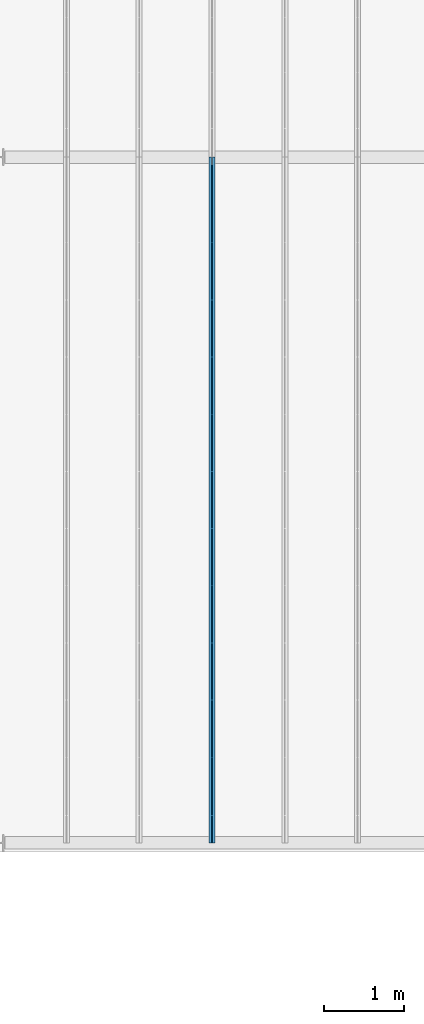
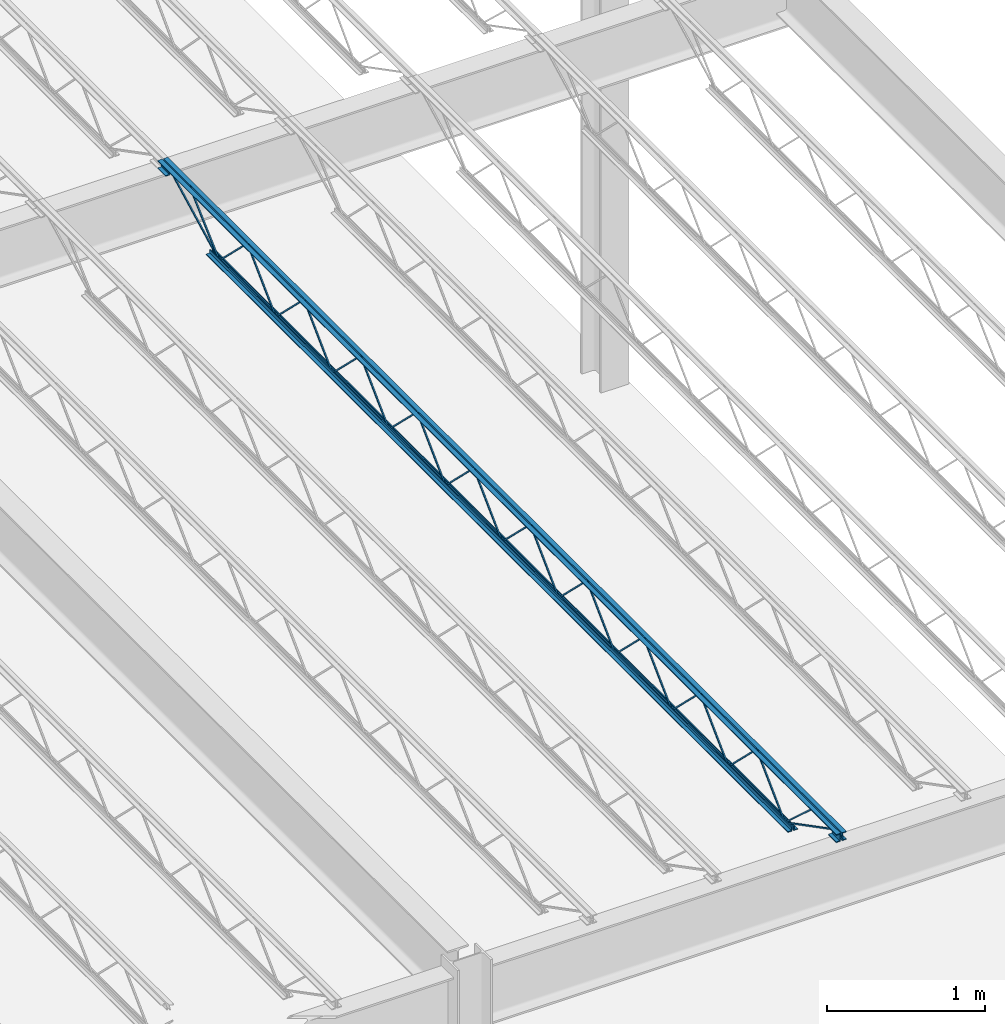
# One storey, part 66 of 119: 1 beam.
"""IFC2X3 building model written with IfcOpenShell, lengths in metres."""

from ifc_helpers import new_model, entity, si_unit, converted_unit, frame, origin, place, context, project, spatial, face_set, surface_model, element, save


model = new_model("IFC2X3")

# Units and contexts
model_context = context("Model", 3, precision=1e-09, world=origin())
plan_context = context("Plan", 3, precision=1e-09, world=origin())
ifc_project = project(units=[si_unit("LENGTHUNIT", "METRE"), si_unit("AREAUNIT", "SQUARE_METRE"), si_unit("VOLUMEUNIT", "CUBIC_METRE"), converted_unit("PLANEANGLEUNIT", "DEGREE", entity("IfcRatioMeasure", 0.01745329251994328), si_unit("PLANEANGLEUNIT", "RADIAN"), dimensions=[0, 0, 0, 0, 0, 0, 0]), si_unit("TIMEUNIT", "SECOND")], contexts=[model_context, plan_context])

# Site, building, storey
site_placement = place(None, origin())
site = spatial("IfcSite", under=ifc_project, at=site_placement, Name="Default", CompositionType="ELEMENT")
building_placement = place(site_placement, origin())
building = spatial("IfcBuilding", under=site, at=building_placement, CompositionType="ELEMENT")
storey_placement = place(building_placement, frame((0.0, 0.0, 4.570000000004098)))
storey = spatial("IfcBuildingStorey", under=building, at=storey_placement, Name="Second Floor", CompositionType="ELEMENT", Elevation=4.570000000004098)

# Beam
beam_placement = place(storey_placement, frame((-4.586750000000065, 10.03999999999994, 4.323999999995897)))
element("IfcBeam", 1, at=beam_placement, inside=storey, Name="M_K-Series Bar Joist-Rod Web:14K1:14K1", ObjectType="M_K-Series Bar Joist-Rod Web:14K1", context=model_context, shape_type="SurfaceModel", body=[
    surface_model("IfcFaceBasedSurfaceModel", [(0.04150000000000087, 6.428799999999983, 0.01110000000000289), (0.03200000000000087, 6.428799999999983, 0.01110000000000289), (0.03200000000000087, 6.428799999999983, 0.001600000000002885), (0.04150000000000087, 6.428799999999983, 0.001600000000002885), (0.03200000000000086, 6.430038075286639, 0.01110000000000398), (0.04150000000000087, 6.430038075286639, 0.01110000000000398), (0.03200000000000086, 6.433911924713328, 0.001600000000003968), (0.03200000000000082, 6.784861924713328, 0.3449000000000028), (0.03200000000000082, 6.787338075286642, 0.3449000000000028), (0.03200000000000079, 7.138288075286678, 0.001600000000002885), (0.03200000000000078, 7.143399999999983, 0.001600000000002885), (0.03200000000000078, 7.143399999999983, 0.01110000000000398), (0.03200000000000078, 7.142161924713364, 0.01110000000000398), (0.03200000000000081, 6.791211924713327, 0.3544000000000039), (0.03200000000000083, 6.780988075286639, 0.3544000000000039), (0.04150000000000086, 6.433911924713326, 0.001600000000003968), (0.04150000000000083, 6.784861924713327, 0.3449000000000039), (0.04150000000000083, 6.78733807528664, 0.3449000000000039), (0.04150000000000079, 7.138288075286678, 0.001600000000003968), (0.04150000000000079, 7.143399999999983, 0.001600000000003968), (0.04150000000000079, 7.143399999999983, 0.01110000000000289), (0.04150000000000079, 7.142161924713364, 0.01110000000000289), (0.04150000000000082, 6.79121192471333, 0.3544000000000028), (0.04150000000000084, 6.780988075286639, 0.3544000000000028), (0.04150000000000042, 5.714199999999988, 0.01110000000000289), (0.03200000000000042, 5.714199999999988, 0.01110000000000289), (0.03200000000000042, 5.714199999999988, 0.001600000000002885), (0.04150000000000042, 5.714199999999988, 0.001600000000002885), (0.03200000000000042, 5.715438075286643, 0.01110000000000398), (0.04150000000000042, 5.715438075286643, 0.01110000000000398), (0.03200000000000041, 5.71931192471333, 0.001600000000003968), (0.03200000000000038, 6.07026192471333, 0.3449000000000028), (0.03200000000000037, 6.072738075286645, 0.3449000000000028), (0.03200000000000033, 6.423688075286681, 0.001600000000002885), (0.03200000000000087, 6.428799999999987, 0.001600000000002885), (0.03200000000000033, 6.428799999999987, 0.01110000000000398), (0.03200000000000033, 6.427561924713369, 0.01110000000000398), (0.03200000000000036, 6.076611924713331, 0.3544000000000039), (0.03200000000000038, 6.066388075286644, 0.3544000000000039), (0.04150000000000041, 5.71931192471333, 0.001600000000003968), (0.04150000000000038, 6.07026192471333, 0.3449000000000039), (0.04150000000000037, 6.072738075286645, 0.3449000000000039), (0.04150000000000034, 6.423688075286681, 0.001600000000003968), (0.04150000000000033, 6.428799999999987, 0.001600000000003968), (0.04150000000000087, 6.428799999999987, 0.01110000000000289), (0.04150000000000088, 6.427561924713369, 0.01110000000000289), (0.04150000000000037, 6.076611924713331, 0.3544000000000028), (0.04150000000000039, 6.066388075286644, 0.3544000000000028), (0.04150000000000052, 4.999599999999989, 0.01110000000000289), (0.03200000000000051, 4.999599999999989, 0.01110000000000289), (0.03200000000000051, 4.999599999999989, 0.001600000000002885), (0.04150000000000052, 4.999599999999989, 0.001600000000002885), (0.03200000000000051, 5.000838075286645, 0.01110000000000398), (0.04150000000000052, 5.000838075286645, 0.01110000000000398), (0.0320000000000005, 5.004711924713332, 0.001600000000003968), (0.03200000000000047, 5.355661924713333, 0.3449000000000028), (0.03200000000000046, 5.358138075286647, 0.3449000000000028), (0.03200000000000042, 5.709088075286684, 0.001600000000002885), (0.03200000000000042, 5.714199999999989, 0.001600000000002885), (0.03200000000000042, 5.714199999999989, 0.01110000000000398), (0.03200000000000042, 5.712961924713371, 0.01110000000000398), (0.03200000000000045, 5.362011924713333, 0.3544000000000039), (0.03200000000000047, 5.351788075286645, 0.3544000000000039), (0.04150000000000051, 5.004711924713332, 0.001600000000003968), (0.04150000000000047, 5.355661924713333, 0.3449000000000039), (0.04150000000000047, 5.358138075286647, 0.3449000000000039), (0.04150000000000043, 5.709088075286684, 0.001600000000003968), (0.04150000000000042, 5.714199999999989, 0.001600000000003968), (0.04150000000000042, 5.714199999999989, 0.01110000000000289), (0.04150000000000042, 5.712961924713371, 0.01110000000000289), (0.04150000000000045, 5.362011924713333, 0.3544000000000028), (0.04150000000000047, 5.351788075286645, 0.3544000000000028), (0.04150000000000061, 4.284999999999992, 0.01110000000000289), (0.0320000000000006, 4.284999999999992, 0.01110000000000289), (0.0320000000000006, 4.284999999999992, 0.001600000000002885), (0.04150000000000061, 4.284999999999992, 0.001600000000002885), (0.0320000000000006, 4.286238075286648, 0.01110000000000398), (0.0415000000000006, 4.286238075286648, 0.01110000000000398), (0.03200000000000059, 4.290111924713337, 0.001600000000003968), (0.03200000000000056, 4.641061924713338, 0.3449000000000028), (0.03200000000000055, 4.643538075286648, 0.3449000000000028), (0.03200000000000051, 4.994488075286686, 0.001600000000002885), (0.03200000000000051, 4.999599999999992, 0.001600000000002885), (0.03200000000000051, 4.999599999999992, 0.01110000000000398), (0.03200000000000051, 4.998361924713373, 0.01110000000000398), (0.03200000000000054, 4.647411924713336, 0.3544000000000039), (0.03200000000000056, 4.637188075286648, 0.3544000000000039), (0.0415000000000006, 4.290111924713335, 0.001600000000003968), (0.04150000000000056, 4.641061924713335, 0.3449000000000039), (0.04150000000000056, 4.643538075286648, 0.3449000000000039), (0.04150000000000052, 4.994488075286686, 0.001600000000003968), (0.04150000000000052, 4.999599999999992, 0.001600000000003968), (0.04150000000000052, 4.999599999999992, 0.01110000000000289), (0.04150000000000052, 4.998361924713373, 0.01110000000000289), (0.04150000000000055, 4.647411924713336, 0.3544000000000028), (0.04150000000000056, 4.637188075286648, 0.3544000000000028), (0.04150000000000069, 3.570399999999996, 0.01110000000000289), (0.03200000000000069, 3.570399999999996, 0.01110000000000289), (0.03200000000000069, 3.570399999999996, 0.001600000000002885), (0.04150000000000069, 3.570399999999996, 0.001600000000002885), (0.03200000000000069, 3.571638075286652, 0.01110000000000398), (0.04150000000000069, 3.571638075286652, 0.01110000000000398), (0.03200000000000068, 3.575511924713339, 0.001600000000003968), (0.03200000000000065, 3.926461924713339, 0.3449000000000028), (0.03200000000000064, 3.928938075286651, 0.3449000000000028), (0.0320000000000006, 4.279888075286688, 0.001600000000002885), (0.0320000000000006, 4.284999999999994, 0.001600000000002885), (0.0320000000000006, 4.284999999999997, 0.01110000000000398), (0.0320000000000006, 4.283761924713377, 0.01110000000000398), (0.03200000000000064, 3.93281192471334, 0.3544000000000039), (0.03200000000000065, 3.922588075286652, 0.3544000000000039), (0.04150000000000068, 3.575511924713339, 0.001600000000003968), (0.04150000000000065, 3.926461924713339, 0.3449000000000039), (0.04150000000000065, 3.928938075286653, 0.3449000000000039), (0.04150000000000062, 4.27988807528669, 0.001600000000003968), (0.04150000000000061, 4.284999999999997, 0.001600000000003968), (0.04150000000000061, 4.284999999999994, 0.01110000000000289), (0.04150000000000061, 4.283761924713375, 0.01110000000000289), (0.04150000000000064, 3.932811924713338, 0.3544000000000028), (0.04150000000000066, 3.922588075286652, 0.3544000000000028), (0.04150000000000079, 2.855799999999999, 0.01110000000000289), (0.03200000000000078, 2.855799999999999, 0.01110000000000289), (0.03200000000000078, 2.855799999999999, 0.001600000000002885), (0.04150000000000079, 2.855799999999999, 0.001600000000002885), (0.03200000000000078, 2.857038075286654, 0.01110000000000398), (0.04150000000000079, 2.857038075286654, 0.01110000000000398), (0.03200000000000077, 2.860911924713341, 0.001600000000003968), (0.03200000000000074, 3.211861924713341, 0.3449000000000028), (0.03200000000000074, 3.214338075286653, 0.3449000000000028), (0.0320000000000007, 3.56528807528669, 0.001600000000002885), (0.03200000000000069, 3.570399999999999, 0.01110000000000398), (0.03200000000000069, 3.56916192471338, 0.01110000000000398), (0.03200000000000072, 3.218211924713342, 0.3544000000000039), (0.03200000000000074, 3.207988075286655, 0.3544000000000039), (0.04150000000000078, 2.860911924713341, 0.001600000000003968), (0.04150000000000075, 3.211861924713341, 0.3449000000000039), (0.04150000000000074, 3.214338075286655, 0.3449000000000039), (0.0415000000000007, 3.565288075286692, 0.001600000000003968), (0.04150000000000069, 3.570399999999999, 0.001600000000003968), (0.0415000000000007, 3.569161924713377, 0.01110000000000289), (0.04150000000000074, 3.21821192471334, 0.3544000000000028), (0.04150000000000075, 3.207988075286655, 0.3544000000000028), (0.04150000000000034, 2.1412, 0.01110000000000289), (0.03200000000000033, 2.1412, 0.01110000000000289), (0.03200000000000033, 2.1412, 0.001600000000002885), (0.04150000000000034, 2.1412, 0.001600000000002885), (0.03200000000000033, 2.142438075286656, 0.01110000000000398), (0.04150000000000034, 2.142438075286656, 0.01110000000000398), (0.03200000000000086, 2.146311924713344, 0.001600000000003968), (0.03200000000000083, 2.497261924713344, 0.3449000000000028), (0.03200000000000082, 2.499738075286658, 0.3449000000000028), (0.03200000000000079, 2.850688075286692, 0.001600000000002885), (0.03200000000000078, 2.8558, 0.001600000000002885), (0.03200000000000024, 2.8558, 0.01110000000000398), (0.03200000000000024, 2.854561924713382, 0.01110000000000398), (0.03200000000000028, 2.503611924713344, 0.3544000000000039), (0.03200000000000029, 2.493388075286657, 0.3544000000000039), (0.04150000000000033, 2.146311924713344, 0.001600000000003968), (0.04150000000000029, 2.497261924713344, 0.3449000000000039), (0.04150000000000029, 2.499738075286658, 0.3449000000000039), (0.04150000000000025, 2.850688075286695, 0.001600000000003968), (0.04150000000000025, 2.8558, 0.001600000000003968), (0.04150000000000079, 2.8558, 0.01110000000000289), (0.04150000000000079, 2.854561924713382, 0.01110000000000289), (0.04150000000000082, 2.503611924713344, 0.3544000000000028), (0.04150000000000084, 2.493388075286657, 0.3544000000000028), (0.04150000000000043, 1.426600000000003, 0.01110000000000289), (0.03200000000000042, 1.426600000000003, 0.01110000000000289), (0.03200000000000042, 1.426600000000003, 0.001600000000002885), (0.04150000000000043, 1.426600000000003, 0.001600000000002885), (0.03200000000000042, 1.427838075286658, 0.01110000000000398), (0.04150000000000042, 1.427838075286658, 0.01110000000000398), (0.03200000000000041, 1.431711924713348, 0.001600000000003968), (0.03200000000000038, 1.782661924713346, 0.3449000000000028), (0.03200000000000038, 1.78513807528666, 0.3449000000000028), (0.03200000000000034, 2.136088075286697, 0.001600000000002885), (0.03200000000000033, 2.141200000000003, 0.001600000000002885), (0.03200000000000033, 2.141200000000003, 0.01110000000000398), (0.03200000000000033, 2.139961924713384, 0.01110000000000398), (0.03200000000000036, 1.789011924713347, 0.3544000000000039), (0.03200000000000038, 1.778788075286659, 0.3544000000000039), (0.04150000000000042, 1.431711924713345, 0.001600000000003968), (0.04150000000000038, 1.782661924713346, 0.3449000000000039), (0.04150000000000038, 1.78513807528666, 0.3449000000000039), (0.04150000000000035, 2.136088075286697, 0.001600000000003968), (0.04150000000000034, 2.141200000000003, 0.001600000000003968), (0.04150000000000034, 2.141200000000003, 0.01110000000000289), (0.04150000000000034, 2.139961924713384, 0.01110000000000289), (0.04150000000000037, 1.789011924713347, 0.3544000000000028), (0.04150000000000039, 1.778788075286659, 0.3544000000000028), (0.04150000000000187, 7.143399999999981, 0.01109999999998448), (0.03200000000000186, 7.143399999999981, 0.01109999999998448), (0.03200000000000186, 7.143399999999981, 0.001599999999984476), (0.04150000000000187, 7.143399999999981, 0.001599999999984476), (0.03200000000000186, 7.144638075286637, 0.01109999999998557), (0.04150000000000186, 7.144638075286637, 0.01109999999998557), (0.03200000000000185, 7.148511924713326, 0.001599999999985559), (0.03200000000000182, 7.499461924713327, 0.3448999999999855), (0.03200000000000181, 7.50193807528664, 0.3448999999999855), (0.03200000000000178, 7.852888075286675, 0.001599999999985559), (0.03200000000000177, 7.857999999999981, 0.001599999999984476), (0.03200000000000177, 7.857999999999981, 0.01109999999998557), (0.03200000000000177, 7.856761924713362, 0.01109999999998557), (0.03200000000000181, 7.505811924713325, 0.3543999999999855), (0.03200000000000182, 7.495588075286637, 0.3543999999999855), (0.04150000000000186, 7.148511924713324, 0.001599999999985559), (0.04150000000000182, 7.499461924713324, 0.3448999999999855), (0.04150000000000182, 7.501938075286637, 0.3448999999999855), (0.04150000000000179, 7.852888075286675, 0.001599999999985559), (0.04150000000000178, 7.857999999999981, 0.001599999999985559), (0.04150000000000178, 7.857999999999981, 0.01109999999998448), (0.04150000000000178, 7.856761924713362, 0.01109999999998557), (0.04150000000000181, 7.505811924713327, 0.3543999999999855), (0.04150000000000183, 7.495588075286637, 0.3543999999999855), (0.04150000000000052, 0.712000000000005, 0.01110000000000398), (0.03200000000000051, 0.712000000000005, 0.01110000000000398), (0.03200000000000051, 0.712000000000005, 0.001600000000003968), (0.04150000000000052, 0.712000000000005, 0.001600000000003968), (0.03200000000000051, 0.7132380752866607, 0.01110000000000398), (0.04150000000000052, 0.7132380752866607, 0.01110000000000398), (0.03200000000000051, 0.7171119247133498, 0.001600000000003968), (0.03200000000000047, 1.068061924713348, 0.3449000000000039), (0.03200000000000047, 1.070538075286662, 0.3449000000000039), (0.03200000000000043, 1.421488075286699, 0.001600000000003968), (0.03200000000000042, 1.426600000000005, 0.001600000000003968), (0.03200000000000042, 1.426600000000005, 0.01110000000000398), (0.03200000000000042, 1.425361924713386, 0.01110000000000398), (0.03200000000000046, 1.074411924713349, 0.3544000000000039), (0.03200000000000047, 1.064188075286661, 0.3544000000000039), (0.04150000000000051, 0.7171119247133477, 0.001600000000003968), (0.04150000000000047, 1.068061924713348, 0.3449000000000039), (0.04150000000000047, 1.070538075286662, 0.3449000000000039), (0.04150000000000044, 1.421488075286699, 0.001600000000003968), (0.04150000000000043, 1.426600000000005, 0.001600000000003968), (0.04150000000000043, 1.426600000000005, 0.01110000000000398), (0.04150000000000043, 1.425361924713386, 0.01110000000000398), (0.04150000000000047, 1.074411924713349, 0.3544000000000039), (0.04150000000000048, 1.064188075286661, 0.3544000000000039), (0.0320000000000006, 8.569999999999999, 0.3559999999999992), (0.0, 8.569999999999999, 0.3559999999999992), (0.0, 8.569999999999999, 0.3494999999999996), (0.02550000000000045, 8.569999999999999, 0.3494999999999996), (0.02550000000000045, 8.569999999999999, 0.3239999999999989), (0.0320000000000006, 8.569999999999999, 0.3239999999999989), (0.04150000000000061, 8.569999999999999, 0.3559999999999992), (0.04150000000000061, 8.569999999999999, 0.3239999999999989), (0.04800000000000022, 8.569999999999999, 0.3239999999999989), (0.04800000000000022, 8.569999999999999, 0.3494999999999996), (0.07350000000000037, 8.569999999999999, 0.3494999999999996), (0.07350000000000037, 8.569999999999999, 0.3559999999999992), (0.0320000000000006, 0.0, 0.3559999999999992), (0.0, 0.0, 0.3559999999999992), (0.0, 0.0, 0.3494999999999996), (0.02550000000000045, 0.0, 0.3494999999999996), (0.02550000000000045, 0.0, 0.3239999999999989), (0.0320000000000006, 0.0, 0.3239999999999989), (0.04150000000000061, 0.0, 0.3559999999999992), (0.04150000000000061, 0.0, 0.3239999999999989), (0.04800000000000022, 0.0, 0.3239999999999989), (0.04800000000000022, 0.0, 0.3494999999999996), (0.07350000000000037, 0.0, 0.3494999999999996), (0.07350000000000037, 0.0, 0.3559999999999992), (0.0414999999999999, 0.0999999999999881, 0.2924999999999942), (0.0735000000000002, 0.0999999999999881, 0.2924999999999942), (0.0735000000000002, 0.0999999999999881, 0.2989999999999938), (0.04800000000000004, 0.0999999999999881, 0.2989999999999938), (0.04800000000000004, 0.0999999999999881, 0.3239999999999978), (0.0414999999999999, 0.0999999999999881, 0.3239999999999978), (0.0, 0.0999999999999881, 0.2924999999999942), (0.03199999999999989, 0.0999999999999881, 0.2924999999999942), (0.03199999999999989, 0.0999999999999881, 0.3239999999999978), (0.02549999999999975, 0.0999999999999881, 0.3239999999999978), (0.02549999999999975, 0.0999999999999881, 0.2989999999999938), (0.0, 0.0999999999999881, 0.2989999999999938), (0.04150000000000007, 0.0, 0.2924999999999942), (0.07350000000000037, 0.0, 0.2924999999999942), (0.07350000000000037, 0.0, 0.2989999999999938), (0.04800000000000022, 0.0, 0.2989999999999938), (0.04800000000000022, 0.0, 0.3239999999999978), (0.04150000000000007, 0.0, 0.3239999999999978), (0.0, 0.0, 0.2924999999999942), (0.03200000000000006, 0.0, 0.2924999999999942), (0.03200000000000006, 0.0, 0.3239999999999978), (0.02549999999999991, 0.0, 0.3239999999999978), (0.02549999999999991, 0.0, 0.2989999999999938), (0.0, 0.0, 0.2989999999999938), (0.0320000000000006, 8.569999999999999, 0.2924999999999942), (0.0320000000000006, 8.569999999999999, 0.3239999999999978), (0.02550000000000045, 8.569999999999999, 0.3239999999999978), (0.02550000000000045, 8.569999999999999, 0.2989999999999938), (0.0, 8.569999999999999, 0.2989999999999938), (0.0, 8.569999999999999, 0.2924999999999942), (0.04150000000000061, 8.569999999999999, 0.2924999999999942), (0.07350000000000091, 8.569999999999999, 0.2924999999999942), (0.07350000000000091, 8.569999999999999, 0.2989999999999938), (0.04800000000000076, 8.569999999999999, 0.2989999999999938), (0.04800000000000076, 8.569999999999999, 0.3239999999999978), (0.04150000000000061, 8.569999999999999, 0.3239999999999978), (0.03200000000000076, 8.47, 0.2924999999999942), (0.03200000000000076, 8.47, 0.3239999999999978), (0.02550000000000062, 8.47, 0.3239999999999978), (0.02550000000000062, 8.47, 0.2989999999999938), (0.0, 8.47, 0.2989999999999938), (0.0, 8.47, 0.2924999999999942), (0.04150000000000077, 8.47, 0.2924999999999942), (0.07350000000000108, 8.47, 0.2924999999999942), (0.07350000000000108, 8.47, 0.2989999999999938), (0.04800000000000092, 8.47, 0.2989999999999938), (0.04800000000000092, 8.47, 0.3239999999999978), (0.04150000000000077, 8.47, 0.3239999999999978), (0.03200000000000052, 7.958000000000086, 0.0), (0.03200000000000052, 7.958000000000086, 0.03199999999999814), (0.02550000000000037, 7.958000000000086, 0.03199999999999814), (0.02550000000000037, 7.958000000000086, 0.006499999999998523), (0.0, 7.958000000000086, 0.006499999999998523), (0.0, 7.958000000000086, 0.0), (0.04150000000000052, 7.958000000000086, 0.0), (0.07350000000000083, 7.958000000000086, 0.0), (0.07350000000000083, 7.958000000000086, 0.006499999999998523), (0.04800000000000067, 7.958000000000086, 0.006499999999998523), (0.04800000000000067, 7.958000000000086, 0.03199999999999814), (0.04150000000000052, 7.958000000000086, 0.03199999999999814), (0.03200000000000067, 0.6120000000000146, 0.0), (0.03200000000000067, 0.6120000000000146, 0.03199999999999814), (0.02550000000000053, 0.6120000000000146, 0.03199999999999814), (0.02550000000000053, 0.6120000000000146, 0.006499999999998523), (0.0, 0.6120000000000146, 0.006499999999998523), (0.0, 0.6120000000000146, 0.0), (0.04150000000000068, 0.6120000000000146, 0.0), (0.073500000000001, 0.6120000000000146, 0.0), (0.073500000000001, 0.6120000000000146, 0.006499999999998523), (0.04800000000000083, 0.6120000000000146, 0.006499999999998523), (0.04800000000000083, 0.6120000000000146, 0.03199999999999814), (0.04150000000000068, 0.6120000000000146, 0.03199999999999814), (0.04150000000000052, 0.7141882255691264, 0.01056594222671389), (0.03200000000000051, 0.7141882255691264, 0.01056594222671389), (0.03200000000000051, 0.7098117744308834, 0.002134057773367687), (0.04150000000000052, 0.7098117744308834, 0.00213405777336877), (0.04150000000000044, 0.1011592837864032, 0.3287499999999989), (0.04150000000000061, 0.0, 0.3287499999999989), (0.04150000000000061, 0.0, 0.3192499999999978), (0.04150000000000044, 0.09884071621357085, 0.3192499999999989), (0.03200000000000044, 0.09884071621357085, 0.3192499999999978), (0.03200000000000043, 0.1011592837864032, 0.3287499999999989), (0.0320000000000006, 0.0, 0.3287499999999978), (0.0320000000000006, 0.0, 0.3192499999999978), (0.0415000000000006, 0.3347428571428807, 0.3417000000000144), (0.03200000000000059, 0.3347428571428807, 0.3417000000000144), (0.03200000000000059, 0.3347428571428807, 0.3322000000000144), (0.0415000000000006, 0.3347428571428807, 0.3322000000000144), (0.03200000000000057, 0.349275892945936, 0.3417000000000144), (0.04150000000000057, 0.3492758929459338, 0.3417000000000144), (0.03200000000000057, 0.3456098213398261, 0.3322000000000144), (0.03200000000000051, 0.7088091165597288, 0.002831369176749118), (0.03200000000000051, 0.7151908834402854, 0.009868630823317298), (0.04150000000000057, 0.3456098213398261, 0.3322000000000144), (0.04150000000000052, 0.708809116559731, 0.002831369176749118), (0.04150000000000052, 0.7151908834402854, 0.009868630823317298), (0.04150000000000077, 8.472188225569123, 0.3197840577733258), (0.04150000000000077, 8.467811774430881, 0.328215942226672), (0.03200000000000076, 8.467811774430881, 0.328215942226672), (0.03200000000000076, 8.472188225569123, 0.3197840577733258), (0.04150000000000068, 7.860188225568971, 0.002134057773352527), (0.04150000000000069, 7.855811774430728, 0.01056594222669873), (0.03200000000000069, 7.855811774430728, 0.01056594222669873), (0.03200000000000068, 7.860188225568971, 0.002134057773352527), (0.04150000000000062, 8.233036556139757, 0.3461600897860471), (0.04150000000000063, 8.22659201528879, 0.3531399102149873), (0.03200000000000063, 8.22659201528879, 0.3531399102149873), (0.03200000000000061, 8.233036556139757, 0.3461600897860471), (0.04150000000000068, 7.86122227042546, 0.00286008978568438), (0.04150000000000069, 7.854777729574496, 0.009839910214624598), (0.03200000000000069, 7.854777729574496, 0.009839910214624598), (0.03200000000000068, 7.86122227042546, 0.00286008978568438)], [face_set([[[0, 1, 2, 3]], [[1, 4, 5, 0]], [[2, 6, 7, 8, 9, 10, 11, 12, 13, 14, 4, 1]], [[3, 2, 6, 15]], [[0, 3, 15, 16, 17, 18, 19, 20, 21, 22, 23, 5]], [[4, 5, 23, 14]], [[15, 16, 7, 6]], [[14, 13, 22, 23]], [[16, 7, 8, 17]], [[13, 12, 21, 22]], [[17, 8, 9, 18]], [[20, 11, 10, 19]], [[12, 11, 20, 21]], [[18, 9, 10, 19]]]), face_set([[[24, 25, 26, 27]], [[25, 28, 29, 24]], [[26, 30, 31, 32, 33, 34, 35, 36, 37, 38, 28, 25]], [[27, 26, 30, 39]], [[24, 27, 39, 40, 41, 42, 43, 44, 45, 46, 47, 29]], [[28, 29, 47, 38]], [[39, 40, 31, 30]], [[38, 37, 46, 47]], [[40, 31, 32, 41]], [[37, 36, 45, 46]], [[41, 32, 33, 42]], [[44, 35, 34, 43]], [[36, 35, 44, 45]], [[42, 33, 34, 43]]]), face_set([[[48, 49, 50, 51]], [[49, 52, 53, 48]], [[50, 54, 55, 56, 57, 58, 59, 60, 61, 62, 52, 49]], [[51, 50, 54, 63]], [[48, 51, 63, 64, 65, 66, 67, 68, 69, 70, 71, 53]], [[52, 53, 71, 62]], [[63, 64, 55, 54]], [[62, 61, 70, 71]], [[64, 55, 56, 65]], [[61, 60, 69, 70]], [[65, 56, 57, 66]], [[68, 59, 58, 67]], [[60, 59, 68, 69]], [[66, 57, 58, 67]]]), face_set([[[72, 73, 74, 75]], [[73, 76, 77, 72]], [[74, 78, 79, 80, 81, 82, 83, 84, 85, 86, 76, 73]], [[75, 74, 78, 87]], [[72, 75, 87, 88, 89, 90, 91, 92, 93, 94, 95, 77]], [[76, 77, 95, 86]], [[87, 88, 79, 78]], [[86, 85, 94, 95]], [[88, 79, 80, 89]], [[85, 84, 93, 94]], [[89, 80, 81, 90]], [[92, 83, 82, 91]], [[84, 83, 92, 93]], [[90, 81, 82, 91]]]), face_set([[[96, 97, 98, 99]], [[97, 100, 101, 96]], [[98, 102, 103, 104, 105, 106, 107, 108, 109, 110, 100, 97]], [[99, 98, 102, 111]], [[96, 99, 111, 112, 113, 114, 115, 116, 117, 118, 119, 101]], [[100, 101, 119, 110]], [[111, 112, 103, 102]], [[110, 109, 118, 119]], [[112, 103, 104, 113]], [[109, 108, 117, 118]], [[113, 104, 105, 114]], [[116, 107, 106, 115]], [[108, 107, 116, 117]], [[114, 105, 106, 115]]]), face_set([[[120, 121, 122, 123]], [[121, 124, 125, 120]], [[122, 126, 127, 128, 129, 98, 130, 131, 132, 133, 124, 121]], [[123, 122, 126, 134]], [[120, 123, 134, 135, 136, 137, 138, 96, 139, 140, 141, 125]], [[124, 125, 141, 133]], [[134, 135, 127, 126]], [[133, 132, 140, 141]], [[135, 127, 128, 136]], [[132, 131, 139, 140]], [[136, 128, 129, 137]], [[96, 130, 98, 138]], [[131, 130, 96, 139]], [[137, 129, 98, 138]]]), face_set([[[142, 143, 144, 145]], [[143, 146, 147, 142]], [[144, 148, 149, 150, 151, 152, 153, 154, 155, 156, 146, 143]], [[145, 144, 148, 157]], [[142, 145, 157, 158, 159, 160, 161, 162, 163, 164, 165, 147]], [[146, 147, 165, 156]], [[157, 158, 149, 148]], [[156, 155, 164, 165]], [[158, 149, 150, 159]], [[155, 154, 163, 164]], [[159, 150, 151, 160]], [[162, 153, 152, 161]], [[154, 153, 162, 163]], [[160, 151, 152, 161]]]), face_set([[[166, 167, 168, 169]], [[167, 170, 171, 166]], [[168, 172, 173, 174, 175, 176, 177, 178, 179, 180, 170, 167]], [[169, 168, 172, 181]], [[166, 169, 181, 182, 183, 184, 185, 186, 187, 188, 189, 171]], [[170, 171, 189, 180]], [[181, 182, 173, 172]], [[180, 179, 188, 189]], [[182, 173, 174, 183]], [[179, 178, 187, 188]], [[183, 174, 175, 184]], [[186, 177, 176, 185]], [[178, 177, 186, 187]], [[184, 175, 176, 185]]]), face_set([[[190, 191, 192, 193]], [[191, 194, 195, 190]], [[192, 196, 197, 198, 199, 200, 201, 202, 203, 204, 194, 191]], [[193, 192, 196, 205]], [[190, 193, 205, 206, 207, 208, 209, 210, 211, 212, 213, 195]], [[194, 195, 213, 204]], [[205, 206, 197, 196]], [[204, 203, 212, 213]], [[206, 197, 198, 207]], [[203, 202, 211, 212]], [[207, 198, 199, 208]], [[210, 201, 200, 209]], [[202, 201, 210, 211]], [[208, 199, 200, 209]]]), face_set([[[214, 215, 216, 217]], [[215, 218, 219, 214]], [[216, 220, 221, 222, 223, 224, 225, 226, 227, 228, 218, 215]], [[217, 216, 220, 229]], [[214, 217, 229, 230, 231, 232, 233, 234, 235, 236, 237, 219]], [[218, 219, 237, 228]], [[229, 230, 221, 220]], [[228, 227, 236, 237]], [[230, 221, 222, 231]], [[227, 226, 235, 236]], [[231, 222, 223, 232]], [[234, 225, 224, 233]], [[226, 225, 234, 235]], [[232, 223, 224, 233]]]), face_set([[[238, 239, 240, 241, 242, 243]], [[244, 245, 246, 247, 248, 249]], [[250, 251, 252, 253, 254, 255]], [[256, 257, 258, 259, 260, 261]], [[243, 238, 250, 255]], [[242, 243, 255, 254]], [[241, 253, 254, 242]], [[240, 241, 253, 252]], [[239, 251, 252, 240]], [[238, 250, 251, 239]], [[249, 261, 256, 244]], [[248, 249, 261, 260]], [[247, 248, 260, 259]], [[246, 247, 259, 258]], [[245, 246, 258, 257]], [[244, 256, 257, 245]]]), face_set([[[262, 263, 264, 265, 266, 267]], [[268, 269, 270, 271, 272, 273]], [[274, 275, 276, 277, 278, 279]], [[280, 281, 282, 283, 284, 285]], [[267, 279, 274, 262]], [[266, 278, 279, 267]], [[265, 266, 278, 277]], [[264, 276, 277, 265]], [[263, 264, 276, 275]], [[262, 263, 275, 274]], [[273, 285, 280, 268]], [[272, 284, 285, 273]], [[271, 283, 284, 272]], [[270, 282, 283, 271]], [[269, 270, 282, 281]], [[268, 269, 281, 280]]]), face_set([[[286, 287, 288, 289, 290, 291]], [[292, 293, 294, 295, 296, 297]], [[298, 299, 300, 301, 302, 303]], [[304, 305, 306, 307, 308, 309]], [[291, 286, 298, 303]], [[290, 302, 303, 291]], [[289, 301, 302, 290]], [[288, 300, 301, 289]], [[287, 299, 300, 288]], [[286, 287, 299, 298]], [[297, 309, 304, 292]], [[296, 308, 309, 297]], [[295, 296, 308, 307]], [[294, 306, 307, 295]], [[293, 294, 306, 305]], [[292, 293, 305, 304]]]), face_set([[[310, 311, 312, 313, 314, 315]], [[316, 317, 318, 319, 320, 321]], [[322, 323, 324, 325, 326, 327]], [[328, 329, 330, 331, 332, 333]], [[315, 310, 322, 327]], [[314, 326, 327, 315]], [[313, 325, 326, 314]], [[312, 324, 325, 313]], [[311, 323, 324, 312]], [[310, 311, 323, 322]], [[321, 333, 328, 316]], [[320, 332, 333, 321]], [[319, 320, 332, 331]], [[318, 330, 331, 319]], [[317, 318, 330, 329]], [[316, 317, 329, 328]]]), face_set([[[334, 335, 336, 337]], [[337, 334, 338, 339, 340, 341]], [[336, 337, 341, 342]], [[335, 343, 344, 345, 342, 336]], [[334, 338, 343, 335]], [[339, 344, 345, 340]], [[342, 341, 340, 345]], [[338, 339, 344, 343]]]), face_set([[[346, 347, 348, 349]], [[347, 350, 351, 346]], [[348, 352, 353, 354, 350, 347]], [[349, 348, 352, 355]], [[346, 349, 355, 356, 357, 351]], [[357, 354, 353, 356]], [[350, 354, 357, 351]], [[355, 352, 353, 356]]]), face_set([[[358, 359, 360, 361]], [[362, 363, 364, 365]], [[361, 358, 362, 365]], [[360, 364, 365, 361]], [[359, 363, 364, 360]], [[358, 359, 363, 362]]]), face_set([[[366, 367, 368, 369]], [[370, 371, 372, 373]], [[369, 373, 370, 366]], [[368, 372, 373, 369]], [[367, 368, 372, 371]], [[366, 367, 371, 370]]])]),
])

save(model, "model.ifc")
